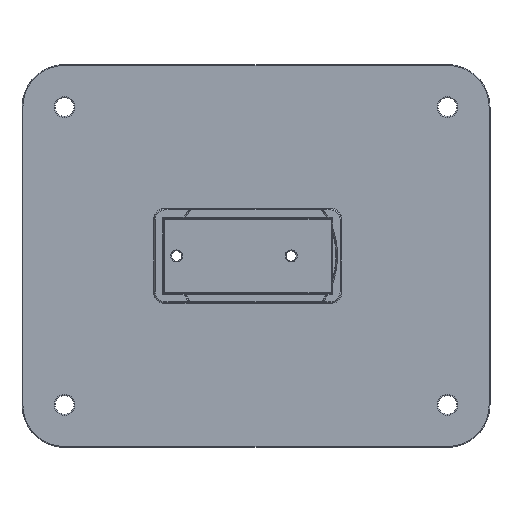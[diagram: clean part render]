
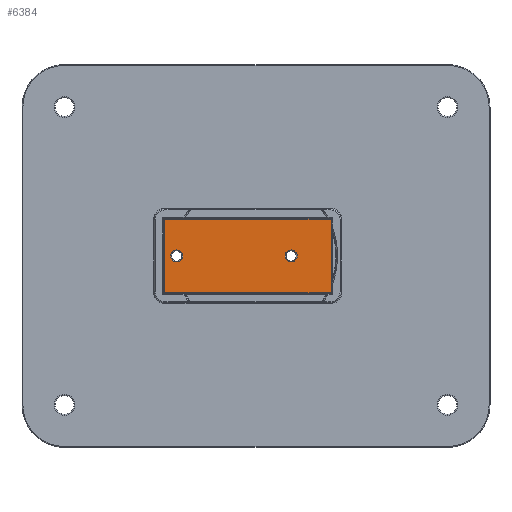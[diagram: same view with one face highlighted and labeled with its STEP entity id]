
A CAD part, top view. The second image highlights one B-rep face of the part: STEP entity #6384.
In plain terms, the highlighted planar face has unit normal (0, 0, 1).
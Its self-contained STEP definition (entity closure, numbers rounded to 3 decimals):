
#3145 = TOROIDAL_SURFACE('',#3146,1.41,0.21);
#3146 = AXIS2_PLACEMENT_3D('',#3147,#3148,#3149);
#3147 = CARTESIAN_POINT('',(-18.65,0.,3.39));
#3148 = DIRECTION('',(0.,0.,1.));
#3149 = DIRECTION('',(-1.,0.,0.));
#3227 = TOROIDAL_SURFACE('',#3228,1.41,0.21);
#3228 = AXIS2_PLACEMENT_3D('',#3229,#3230,#3231);
#3229 = CARTESIAN_POINT('',(8.25,0.,3.39));
#3230 = DIRECTION('',(-0.,-0.,-1.));
#3231 = DIRECTION('',(-1.,0.,0.));
#4602 = VERTEX_POINT('',#4603);
#4603 = CARTESIAN_POINT('',(-20.06,0.,3.6));
#4623 = EDGE_CURVE('',#4602,#4602,#4624,.T.);
#4624 = SURFACE_CURVE('',#4625,(#4630,#4637),.PCURVE_S1.);
#4625 = CIRCLE('',#4626,1.41);
#4626 = AXIS2_PLACEMENT_3D('',#4627,#4628,#4629);
#4627 = CARTESIAN_POINT('',(-18.65,0.,3.6));
#4628 = DIRECTION('',(-0.,0.,-1.));
#4629 = DIRECTION('',(-1.,0.,0.));
#4630 = PCURVE('',#3145,#4631);
#4631 = DEFINITIONAL_REPRESENTATION('',(#4632),#4636);
#4632 = LINE('',#4633,#4634);
#4633 = CARTESIAN_POINT('',(-0.,1.571));
#4634 = VECTOR('',#4635,1.);
#4635 = DIRECTION('',(-1.,0.));
#4636 = ( GEOMETRIC_REPRESENTATION_CONTEXT(2) 
PARAMETRIC_REPRESENTATION_CONTEXT() REPRESENTATION_CONTEXT('2D SPACE',''
  ) );
#4637 = PCURVE('',#4638,#4643);
#4638 = PLANE('',#4639);
#4639 = AXIS2_PLACEMENT_3D('',#4640,#4641,#4642);
#4640 = CARTESIAN_POINT('',(-21.8,-8.9,3.6));
#4641 = DIRECTION('',(0.,0.,1.));
#4642 = DIRECTION('',(1.,0.,0.));
#4643 = DEFINITIONAL_REPRESENTATION('',(#4644),#4652);
#4644 = ( BOUNDED_CURVE() B_SPLINE_CURVE(2,(#4645,#4646,#4647,#4648,
#4649,#4650,#4651),.UNSPECIFIED.,.T.,.F.) B_SPLINE_CURVE_WITH_KNOTS((1,2
    ,2,2,2,1),(-2.094,0.,2.094,4.189,
6.283,8.378),.UNSPECIFIED.) CURVE() 
GEOMETRIC_REPRESENTATION_ITEM() RATIONAL_B_SPLINE_CURVE((1.,0.5,1.,0.5,
1.,0.5,1.)) REPRESENTATION_ITEM('') );
#4645 = CARTESIAN_POINT('',(1.74,8.9));
#4646 = CARTESIAN_POINT('',(1.74,11.342));
#4647 = CARTESIAN_POINT('',(3.855,10.121));
#4648 = CARTESIAN_POINT('',(5.97,8.9));
#4649 = CARTESIAN_POINT('',(3.855,7.679));
#4650 = CARTESIAN_POINT('',(1.74,6.458));
#4651 = CARTESIAN_POINT('',(1.74,8.9));
#4652 = ( GEOMETRIC_REPRESENTATION_CONTEXT(2) 
PARAMETRIC_REPRESENTATION_CONTEXT() REPRESENTATION_CONTEXT('2D SPACE',''
  ) );
#4660 = VERTEX_POINT('',#4661);
#4661 = CARTESIAN_POINT('',(6.84,0.,3.6));
#4683 = EDGE_CURVE('',#4660,#4660,#4684,.T.);
#4684 = SURFACE_CURVE('',#4685,(#4690,#4697),.PCURVE_S1.);
#4685 = CIRCLE('',#4686,1.41);
#4686 = AXIS2_PLACEMENT_3D('',#4687,#4688,#4689);
#4687 = CARTESIAN_POINT('',(8.25,0.,3.6));
#4688 = DIRECTION('',(-0.,0.,-1.));
#4689 = DIRECTION('',(-1.,0.,0.));
#4690 = PCURVE('',#3227,#4691);
#4691 = DEFINITIONAL_REPRESENTATION('',(#4692),#4696);
#4692 = LINE('',#4693,#4694);
#4693 = CARTESIAN_POINT('',(0.,4.712));
#4694 = VECTOR('',#4695,1.);
#4695 = DIRECTION('',(1.,0.));
#4696 = ( GEOMETRIC_REPRESENTATION_CONTEXT(2) 
PARAMETRIC_REPRESENTATION_CONTEXT() REPRESENTATION_CONTEXT('2D SPACE',''
  ) );
#4697 = PCURVE('',#4638,#4698);
#4698 = DEFINITIONAL_REPRESENTATION('',(#4699),#4707);
#4699 = ( BOUNDED_CURVE() B_SPLINE_CURVE(2,(#4700,#4701,#4702,#4703,
#4704,#4705,#4706),.UNSPECIFIED.,.T.,.F.) B_SPLINE_CURVE_WITH_KNOTS((1,2
    ,2,2,2,1),(-2.094,0.,2.094,4.189,
6.283,8.378),.UNSPECIFIED.) CURVE() 
GEOMETRIC_REPRESENTATION_ITEM() RATIONAL_B_SPLINE_CURVE((1.,0.5,1.,0.5,
1.,0.5,1.)) REPRESENTATION_ITEM('') );
#4700 = CARTESIAN_POINT('',(28.64,8.9));
#4701 = CARTESIAN_POINT('',(28.64,11.342));
#4702 = CARTESIAN_POINT('',(30.755,10.121));
#4703 = CARTESIAN_POINT('',(32.87,8.9));
#4704 = CARTESIAN_POINT('',(30.755,7.679));
#4705 = CARTESIAN_POINT('',(28.64,6.458));
#4706 = CARTESIAN_POINT('',(28.64,8.9));
#4707 = ( GEOMETRIC_REPRESENTATION_CONTEXT(2) 
PARAMETRIC_REPRESENTATION_CONTEXT() REPRESENTATION_CONTEXT('2D SPACE',''
  ) );
#6384 = ADVANCED_FACE('',(#6385,#6388,#6502),#4638,.T.);
#6385 = FACE_BOUND('',#6386,.T.);
#6386 = EDGE_LOOP('',(#6387));
#6387 = ORIENTED_EDGE('',*,*,#4683,.T.);
#6388 = FACE_BOUND('',#6389,.T.);
#6389 = EDGE_LOOP('',(#6390,#6420,#6448,#6476));
#6390 = ORIENTED_EDGE('',*,*,#6391,.F.);
#6391 = EDGE_CURVE('',#6392,#6394,#6396,.T.);
#6392 = VERTEX_POINT('',#6393);
#6393 = CARTESIAN_POINT('',(-21.59,-8.69,3.6));
#6394 = VERTEX_POINT('',#6395);
#6395 = CARTESIAN_POINT('',(-21.59,8.69,3.6));
#6396 = SURFACE_CURVE('',#6397,(#6401,#6408),.PCURVE_S1.);
#6397 = LINE('',#6398,#6399);
#6398 = CARTESIAN_POINT('',(-21.59,-8.9,3.6));
#6399 = VECTOR('',#6400,1.);
#6400 = DIRECTION('',(0.,1.,0.));
#6401 = PCURVE('',#4638,#6402);
#6402 = DEFINITIONAL_REPRESENTATION('',(#6403),#6407);
#6403 = LINE('',#6404,#6405);
#6404 = CARTESIAN_POINT('',(0.21,0.));
#6405 = VECTOR('',#6406,1.);
#6406 = DIRECTION('',(0.,1.));
#6407 = ( GEOMETRIC_REPRESENTATION_CONTEXT(2) 
PARAMETRIC_REPRESENTATION_CONTEXT() REPRESENTATION_CONTEXT('2D SPACE',''
  ) );
#6408 = PCURVE('',#6409,#6414);
#6409 = CYLINDRICAL_SURFACE('',#6410,0.21);
#6410 = AXIS2_PLACEMENT_3D('',#6411,#6412,#6413);
#6411 = CARTESIAN_POINT('',(-21.59,-8.9,3.81));
#6412 = DIRECTION('',(0.,1.,0.));
#6413 = DIRECTION('',(0.,0.,-1.));
#6414 = DEFINITIONAL_REPRESENTATION('',(#6415),#6419);
#6415 = LINE('',#6416,#6417);
#6416 = CARTESIAN_POINT('',(0.,0.));
#6417 = VECTOR('',#6418,1.);
#6418 = DIRECTION('',(0.,1.));
#6419 = ( GEOMETRIC_REPRESENTATION_CONTEXT(2) 
PARAMETRIC_REPRESENTATION_CONTEXT() REPRESENTATION_CONTEXT('2D SPACE',''
  ) );
#6420 = ORIENTED_EDGE('',*,*,#6421,.T.);
#6421 = EDGE_CURVE('',#6392,#6422,#6424,.T.);
#6422 = VERTEX_POINT('',#6423);
#6423 = CARTESIAN_POINT('',(17.66,-8.69,3.6));
#6424 = SURFACE_CURVE('',#6425,(#6429,#6436),.PCURVE_S1.);
#6425 = LINE('',#6426,#6427);
#6426 = CARTESIAN_POINT('',(-21.8,-8.69,3.6));
#6427 = VECTOR('',#6428,1.);
#6428 = DIRECTION('',(1.,0.,0.));
#6429 = PCURVE('',#4638,#6430);
#6430 = DEFINITIONAL_REPRESENTATION('',(#6431),#6435);
#6431 = LINE('',#6432,#6433);
#6432 = CARTESIAN_POINT('',(0.,0.21));
#6433 = VECTOR('',#6434,1.);
#6434 = DIRECTION('',(1.,0.));
#6435 = ( GEOMETRIC_REPRESENTATION_CONTEXT(2) 
PARAMETRIC_REPRESENTATION_CONTEXT() REPRESENTATION_CONTEXT('2D SPACE',''
  ) );
#6436 = PCURVE('',#6437,#6442);
#6437 = CYLINDRICAL_SURFACE('',#6438,0.21);
#6438 = AXIS2_PLACEMENT_3D('',#6439,#6440,#6441);
#6439 = CARTESIAN_POINT('',(-21.8,-8.69,3.81));
#6440 = DIRECTION('',(1.,0.,0.));
#6441 = DIRECTION('',(0.,0.,-1.));
#6442 = DEFINITIONAL_REPRESENTATION('',(#6443),#6447);
#6443 = LINE('',#6444,#6445);
#6444 = CARTESIAN_POINT('',(-0.,0.));
#6445 = VECTOR('',#6446,1.);
#6446 = DIRECTION('',(-0.,1.));
#6447 = ( GEOMETRIC_REPRESENTATION_CONTEXT(2) 
PARAMETRIC_REPRESENTATION_CONTEXT() REPRESENTATION_CONTEXT('2D SPACE',''
  ) );
#6448 = ORIENTED_EDGE('',*,*,#6449,.T.);
#6449 = EDGE_CURVE('',#6422,#6450,#6452,.T.);
#6450 = VERTEX_POINT('',#6451);
#6451 = CARTESIAN_POINT('',(17.66,8.69,3.6));
#6452 = SURFACE_CURVE('',#6453,(#6457,#6464),.PCURVE_S1.);
#6453 = LINE('',#6454,#6455);
#6454 = CARTESIAN_POINT('',(17.66,-8.9,3.6));
#6455 = VECTOR('',#6456,1.);
#6456 = DIRECTION('',(0.,1.,0.));
#6457 = PCURVE('',#4638,#6458);
#6458 = DEFINITIONAL_REPRESENTATION('',(#6459),#6463);
#6459 = LINE('',#6460,#6461);
#6460 = CARTESIAN_POINT('',(39.46,0.));
#6461 = VECTOR('',#6462,1.);
#6462 = DIRECTION('',(0.,1.));
#6463 = ( GEOMETRIC_REPRESENTATION_CONTEXT(2) 
PARAMETRIC_REPRESENTATION_CONTEXT() REPRESENTATION_CONTEXT('2D SPACE',''
  ) );
#6464 = PCURVE('',#6465,#6470);
#6465 = CYLINDRICAL_SURFACE('',#6466,0.21);
#6466 = AXIS2_PLACEMENT_3D('',#6467,#6468,#6469);
#6467 = CARTESIAN_POINT('',(17.66,-8.9,3.81));
#6468 = DIRECTION('',(0.,1.,0.));
#6469 = DIRECTION('',(0.,0.,-1.));
#6470 = DEFINITIONAL_REPRESENTATION('',(#6471),#6475);
#6471 = LINE('',#6472,#6473);
#6472 = CARTESIAN_POINT('',(-0.,0.));
#6473 = VECTOR('',#6474,1.);
#6474 = DIRECTION('',(-0.,1.));
#6475 = ( GEOMETRIC_REPRESENTATION_CONTEXT(2) 
PARAMETRIC_REPRESENTATION_CONTEXT() REPRESENTATION_CONTEXT('2D SPACE',''
  ) );
#6476 = ORIENTED_EDGE('',*,*,#6477,.F.);
#6477 = EDGE_CURVE('',#6394,#6450,#6478,.T.);
#6478 = SURFACE_CURVE('',#6479,(#6483,#6490),.PCURVE_S1.);
#6479 = LINE('',#6480,#6481);
#6480 = CARTESIAN_POINT('',(-21.8,8.69,3.6));
#6481 = VECTOR('',#6482,1.);
#6482 = DIRECTION('',(1.,0.,0.));
#6483 = PCURVE('',#4638,#6484);
#6484 = DEFINITIONAL_REPRESENTATION('',(#6485),#6489);
#6485 = LINE('',#6486,#6487);
#6486 = CARTESIAN_POINT('',(0.,17.59));
#6487 = VECTOR('',#6488,1.);
#6488 = DIRECTION('',(1.,0.));
#6489 = ( GEOMETRIC_REPRESENTATION_CONTEXT(2) 
PARAMETRIC_REPRESENTATION_CONTEXT() REPRESENTATION_CONTEXT('2D SPACE',''
  ) );
#6490 = PCURVE('',#6491,#6496);
#6491 = CYLINDRICAL_SURFACE('',#6492,0.21);
#6492 = AXIS2_PLACEMENT_3D('',#6493,#6494,#6495);
#6493 = CARTESIAN_POINT('',(-21.8,8.69,3.81));
#6494 = DIRECTION('',(1.,0.,0.));
#6495 = DIRECTION('',(0.,0.,-1.));
#6496 = DEFINITIONAL_REPRESENTATION('',(#6497),#6501);
#6497 = LINE('',#6498,#6499);
#6498 = CARTESIAN_POINT('',(0.,0.));
#6499 = VECTOR('',#6500,1.);
#6500 = DIRECTION('',(0.,1.));
#6501 = ( GEOMETRIC_REPRESENTATION_CONTEXT(2) 
PARAMETRIC_REPRESENTATION_CONTEXT() REPRESENTATION_CONTEXT('2D SPACE',''
  ) );
#6502 = FACE_BOUND('',#6503,.T.);
#6503 = EDGE_LOOP('',(#6504));
#6504 = ORIENTED_EDGE('',*,*,#4623,.T.);
